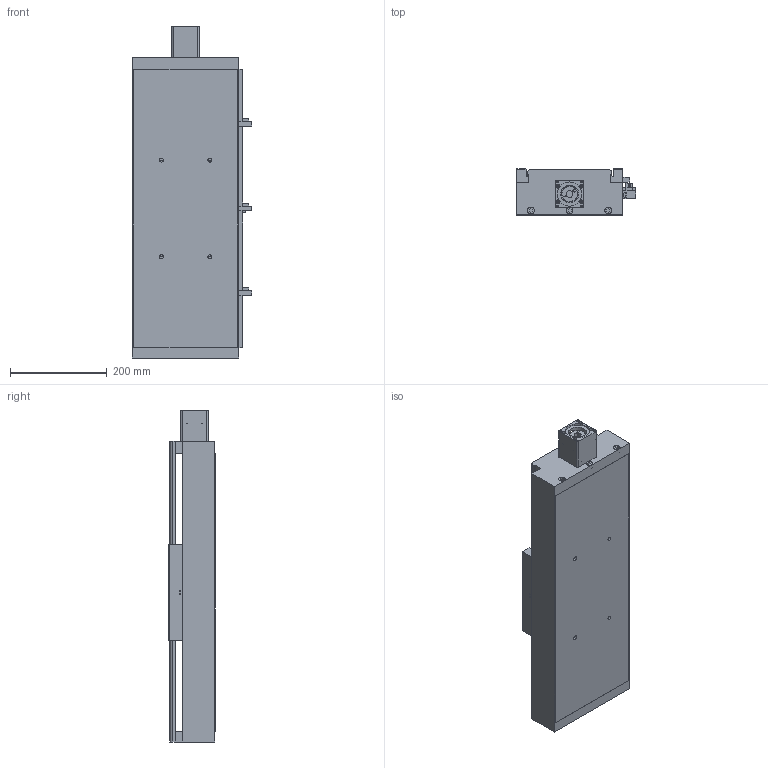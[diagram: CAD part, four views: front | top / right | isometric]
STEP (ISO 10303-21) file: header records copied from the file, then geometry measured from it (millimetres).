
FILE_DESCRIPTION((''),'2;1');
FILE_NAME('E:\libraries\UIA actuator library 2016\standard actuator\UIA220R20NDC\UIA220R20NDC ball screw 20\UIA220R20NDC-_ _ _-R20_ _ stp file, 01May16\UIA220R20NDC-350-R20_ _-M60-P13-C10-S.stp','2016-04-29T15:01:19',('h029'),(''),'Autodesk Inventor 11','Autodesk Inventor 11','');
FILE_SCHEMA(('AUTOMOTIVE_DESIGN { 1 0 10303 214 1 1 1 1 }'));
Length unit declared in the file: millimetre
Products named in the file (10): UIA220R20NDC-350-R20_ _; UIA220R20NDC-body; 41-100 0010 CARRIAGE; sensor rail; Sensor Switch; motor mount M60; SOH-32C; SOH-32C-3; SOH-32C-1; SOH-32C-2
Assembly tree (9 placements, depth 3):
  UIA220R20NDC-350-R20_ _
    UIA220R20NDC-body
    41-100 0010 CARRIAGE
    sensor rail
    Sensor Switch
    motor mount M60
    SOH-32C
      SOH-32C-3
      SOH-32C-1
      SOH-32C-2
Bounding box: 246.5 x 96 x 686 mm (x, y, z)
Volume: 4538091.5 mm3; surface area: 1006054 mm2
Topology: 8 solids, 8 shells, 500 faces, 1342 edges, 882 vertices
Faces by surface type: plane 341, bspline 109, cylinder 48, cone 2
Full cylindrical faces by diameter (mm): 3.242 x2, 4.5 x2, 7 x4, 7.5 x2, 12 x2, 13.8 x3, 14 x4, 15 x1, 32 x3, 37 x1, 46.9 x1, 47.1 x1
Entity records: 16326 total; most frequent: CARTESIAN_POINT 4540, ORIENTED_EDGE 2298, DIRECTION 2249, EDGE_CURVE 1149, VECTOR 849, LINE 849, VERTEX_POINT 808, EDGE_LOOP 711
